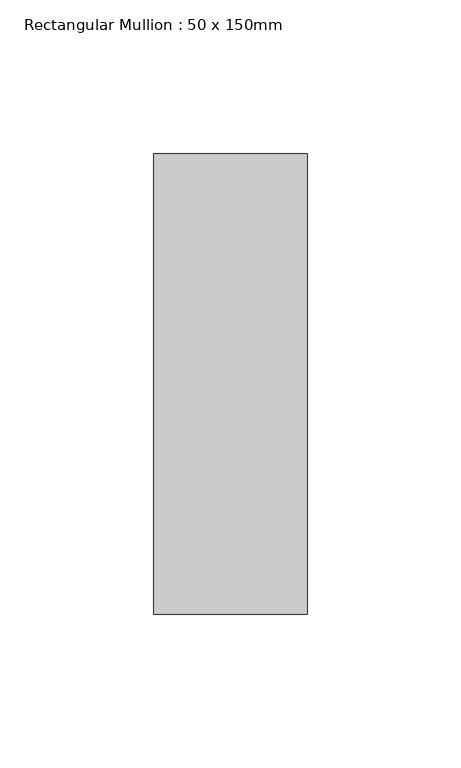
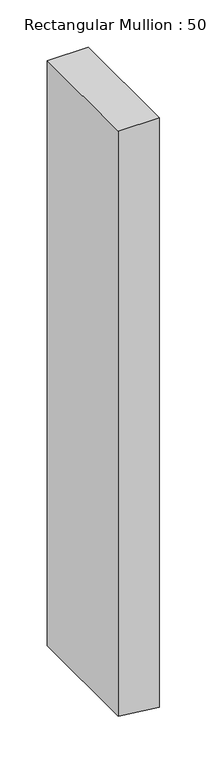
"""IFC4 building model written with IfcOpenShell, lengths in millimetres: member geometry, Rectangular Mullion : 50 x 150mm."""

import ifcopenshell
import ifcopenshell.guid

model = None  # the IFC model being written
_history = None  # IfcOwnerHistory: only IFC2X3 demands one
_inside = {}  # id of a spatial element -> (the spatial element, [elements in it])
_under = {}  # id of a project, library or spatial element -> (it, [spatial elements below it])
_declared = {}  # id of a project -> (the project, [libraries it declares])
_typed = {}  # id of a type object -> (the type object, [elements of that type])
_made_of = {}  # id of a material, layer set ... -> (it, [elements and type objects made of it])


def new_model(schema):
    """Start an empty IFC model of exactly this schema.

    Asked for "IFC4X3", IfcOpenShell would pick the latest addendum, in which some entities
    have other attributes; the version numbers below select the first issue.
    IFC2X3 requires an IfcOwnerHistory on every rooted entity: one is made here for all.
    """
    global model, _history
    if schema == "IFC4X3":
        model = ifcopenshell.file(schema_version=(4, 3, 0, 0))
    else:
        model = ifcopenshell.file(schema=schema)
    _inside.clear()
    _under.clear()
    _declared.clear()
    _typed.clear()
    _made_of.clear()
    _history = None
    if model.schema == "IFC2X3":
        org = make("IfcOrganization", Name="unknown")
        user = make(
            "IfcPersonAndOrganization",
            ThePerson=make("IfcPerson", FamilyName="unknown"),
            TheOrganization=org,
        )
        app = make(
            "IfcApplication",
            ApplicationDeveloper=org,
            Version="unknown",
            ApplicationFullName="unknown",
            ApplicationIdentifier="unknown",
        )
        _history = make(
            "IfcOwnerHistory",
            OwningUser=user,
            OwningApplication=app,
            ChangeAction="ADDED",
            CreationDate=0,
        )
    return model


def make(cls, **values):
    """One entity of the class cls with the attributes given. An attribute that is None is left unset."""
    return model.create_entity(
        cls, **{name: value for name, value in values.items() if value is not None}
    )


def rooted(cls, **values):
    """An entity with a GlobalId (a new one), such as an element, a storey or a relation."""
    return make(cls, GlobalId=ifcopenshell.guid.new(), OwnerHistory=_history, **values)


def si_unit(unit_type, name, prefix=None):
    """IfcSIUnit, for example si_unit("LENGTHUNIT", "METRE", prefix="MILLI")."""
    return make("IfcSIUnit", UnitType=unit_type, Prefix=prefix, Name=name)


def assignment(units):
    """IfcUnitAssignment: the units of a project."""
    return None if units is None else make("IfcUnitAssignment", Units=units)


def point(xyz):
    """IfcCartesianPoint."""
    return None if xyz is None else make("IfcCartesianPoint", Coordinates=xyz)


def direction(xyz):
    """IfcDirection."""
    return None if xyz is None else make("IfcDirection", DirectionRatios=xyz)


def frame(location, z_axis=None, x_axis=None):
    """IfcAxis2Placement3D, a coordinate frame: its origin and axes. An axis left out is left unset."""
    return make(
        "IfcAxis2Placement3D",
        Location=point(location),
        Axis=direction(z_axis),
        RefDirection=direction(x_axis),
    )


def origin():
    """The frame at (0, 0, 0) with its axes left unset."""
    return frame((0.0, 0.0, 0.0))


def place(relative_to, where):
    """IfcLocalPlacement: puts the frame where relative to a parent placement (None: the world)."""
    return make(
        "IfcLocalPlacement", PlacementRelTo=relative_to, RelativePlacement=where
    )


def context(
    kind, dimensions, precision=None, world=None, true_north=None, identifier=None
):
    """IfcGeometricRepresentationContext, for example the 3D "Model" context."""
    return make(
        "IfcGeometricRepresentationContext",
        ContextIdentifier=identifier,
        ContextType=kind,
        CoordinateSpaceDimension=dimensions,
        Precision=precision,
        WorldCoordinateSystem=world,
        TrueNorth=true_north,
    )


def project(units=None, contexts=None):
    """IfcProject with its units and contexts."""
    return rooted(
        "IfcProject",
        Name="project",
        RepresentationContexts=contexts,
        UnitsInContext=assignment(units),
    )


def spatial(cls, under=None, at=None, **own):
    """A site, building, storey or space (cls), placed at a placement, below another one or the project."""
    s = rooted(cls, ObjectPlacement=at, **own)
    if under is not None:
        _under.setdefault(under.id(), (under, []))[1].append(s)
    return s


def polyline(points):
    """IfcPolyline through the points."""
    return make("IfcPolyline", Points=[point(p) for p in points])


def outline(outer, holes=None, kind="AREA"):
    """IfcArbitraryClosedProfileDef: a profile drawn as a closed curve; with holes, ...WithVoids."""
    if holes is None:
        return make("IfcArbitraryClosedProfileDef", ProfileType=kind, OuterCurve=outer)
    return make(
        "IfcArbitraryProfileDefWithVoids",
        ProfileType=kind,
        OuterCurve=outer,
        InnerCurves=holes,
    )


def extrude(swept, where, along, depth):
    """IfcExtrudedAreaSolid: the profile swept, set in the frame where, extruded along a direction by depth."""
    return make(
        "IfcExtrudedAreaSolid",
        SweptArea=swept,
        Position=where,
        ExtrudedDirection=direction(along),
        Depth=depth,
    )


def shape(context_of_items, identifier, shape_type, items):
    """IfcShapeRepresentation: the items that make up one representation, for example the "Body"."""
    return make(
        "IfcShapeRepresentation",
        ContextOfItems=context_of_items,
        RepresentationIdentifier=identifier,
        RepresentationType=shape_type,
        Items=items,
    )


def source(mapping_origin, context_of_items, identifier, shape_type, items):
    """IfcRepresentationMap: a shape defined once, which mapped items show again and again."""
    return make(
        "IfcRepresentationMap",
        MappingOrigin=mapping_origin,
        MappedRepresentation=shape(context_of_items, identifier, shape_type, items),
    )


def transform(
    local_origin,
    x_axis=None,
    y_axis=None,
    z_axis=None,
    scale=None,
    scale2=None,
    scale3=None,
    uniform=True,
):
    """IfcCartesianTransformationOperator3D, or its non-uniform kind. x_axis, y_axis, z_axis: its Axis1, 2, 3."""
    if uniform:
        return make(
            "IfcCartesianTransformationOperator3D",
            Axis1=direction(x_axis),
            Axis2=direction(y_axis),
            LocalOrigin=point(local_origin),
            Scale=scale,
            Axis3=direction(z_axis),
        )
    return make(
        "IfcCartesianTransformationOperator3DnonUniform",
        Axis1=direction(x_axis),
        Axis2=direction(y_axis),
        LocalOrigin=point(local_origin),
        Scale=scale,
        Axis3=direction(z_axis),
        Scale2=scale2,
        Scale3=scale3,
    )


def mapped(mapping_source, mapping_target):
    """IfcMappedItem: shows the shape of a source again, moved by a transform."""
    return make(
        "IfcMappedItem", MappingSource=mapping_source, MappingTarget=mapping_target
    )


def made_of(thing, what):
    """Note that an element or type object is made of a material, layer set ...; save() writes the relation."""
    if what is not None:
        _made_of.setdefault(what.id(), (what, []))[1].append(thing)
    return thing


def element(
    cls,
    number,
    at=None,
    inside=None,
    cuts=None,
    type_object=None,
    material=None,
    context=None,
    identifier="Body",
    shape_type=None,
    held_by="IfcProductDefinitionShape",
    body=None,
    shapes=None,
    **own,
):
    """One element of the class cls, such as IfcWall. Its Tag is "e" and its number.

    at: its placement. inside: the storey or other place that contains it. cuts: it is an
    opening in that element (IfcRelVoidsElement). A single representation is given by context,
    identifier, shape_type and body (its items); several are given by shapes. held_by: the class
    of the entity that holds the representations. save() writes the other relations.
    """
    e = rooted(cls, Tag="e%d" % number, ObjectPlacement=at, **own)
    if body is not None:
        shapes = [shape(context, identifier, shape_type, body)]
    if shapes is not None:
        e.Representation = make(held_by, Representations=shapes)
    if inside is not None:
        _inside.setdefault(inside.id(), (inside, []))[1].append(e)
    if cuts is not None:
        rooted(
            "IfcRelVoidsElement", RelatingBuildingElement=cuts, RelatedOpeningElement=e
        )
    if type_object is not None:
        _typed.setdefault(type_object.id(), (type_object, []))[1].append(e)
    return made_of(e, material)


def aggregate(whole, parts):
    """IfcRelAggregates: a whole, such as a stair, and the parts it consists of."""
    return rooted("IfcRelAggregates", RelatingObject=whole, RelatedObjects=parts)


def save(model, path):
    """Write the relations noted so far, then the file.

    IfcRelAggregates (storeys below a building ...), IfcRelContainedInSpatialStructure (elements
    in a storey), IfcRelDefinesByType, IfcRelAssociatesMaterial and IfcRelDeclares: one each for
    every whole, place, type object, material and project.
    """
    for whole, parts in _under.values():
        aggregate(whole, parts)
    for where, things in _inside.values():
        rooted(
            "IfcRelContainedInSpatialStructure",
            RelatedElements=things,
            RelatingStructure=where,
        )
    for kind, things in _typed.values():
        rooted("IfcRelDefinesByType", RelatedObjects=things, RelatingType=kind)
    for what, things in _made_of.values():
        rooted("IfcRelAssociatesMaterial", RelatedObjects=things, RelatingMaterial=what)
    for by, libraries in _declared.values():
        rooted("IfcRelDeclares", RelatingContext=by, RelatedDefinitions=libraries)
    model.write(path)


def rectangular_mullion_50_x_150mm_4d841c8a(model_context):
    return source(origin(), model_context, "Body", "SweptSolid", [
        extrude(outline(polyline([(0.0, 25.0), (0.0, -25.0), (-754.1012375, -25.0), (-757.5813968, 5.6423937), (-759.779905, 25.0), (0.0, 25.0)])), frame((0.0, -75.0, 0.0), z_axis=(0.0, 1.0, 0.0), x_axis=(0.0, 0.0, 1.0)), (0.0, 0.0, 1.0), 150.0),
    ])


if __name__ == "__main__":
    model = new_model("IFC4")
    model_context = context("Model", 3, world=origin())
    ifc_project = project(units=[si_unit("LENGTHUNIT", "METRE", prefix="MILLI")], contexts=[model_context])
    site = spatial("IfcSite", under=ifc_project)
    building = spatial("IfcBuilding", under=site)
    placement = place(None, origin())
    rectangular_mullion_50_x_150mm_shape = rectangular_mullion_50_x_150mm_4d841c8a(model_context)
    element("IfcMember", 1, ObjectType="Rectangular Mullion : 50 x 150mm", at=placement, inside=building, context=model_context, shape_type="MappedRepresentation", body=[
        mapped(rectangular_mullion_50_x_150mm_shape, transform((0.0, 0.0, 0.0), x_axis=(1.0, 0.0, 0.0), y_axis=(0.0, 1.0, 0.0), z_axis=(0.0, 0.0, 1.0))),
    ])
    save(model, "model.ifc")
